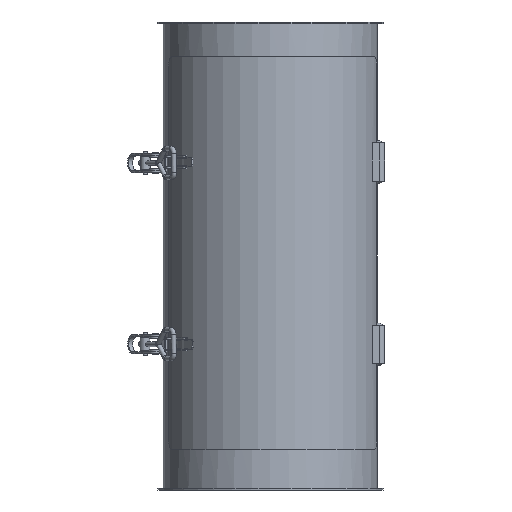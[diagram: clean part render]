
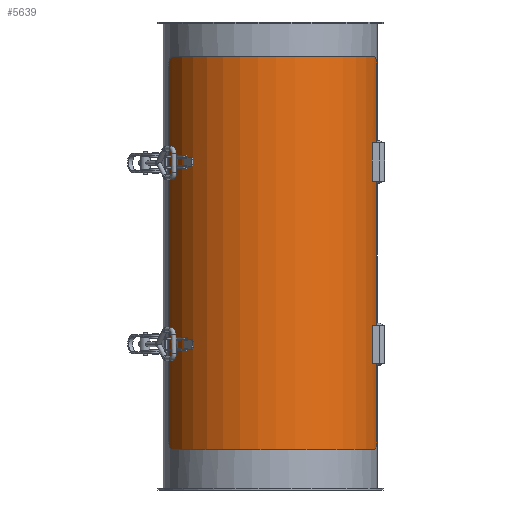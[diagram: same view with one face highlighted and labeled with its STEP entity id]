
A CAD part, front view. The second image highlights one B-rep face of the part: STEP entity #5639.
In plain terms, the highlighted cylindrical face has radius 113.5 mm (diameter 227 mm), a partial arc.
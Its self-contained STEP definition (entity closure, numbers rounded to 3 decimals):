
#5426=CARTESIAN_POINT('',(-16.634,12.525,0.441));
#5427=VERTEX_POINT('',#5426);
#5434=CARTESIAN_POINT('',(-26.634,2.525,0.0));
#5435=VERTEX_POINT('',#5434);
#5436=CARTESIAN_POINT('',(-16.634,12.525,0.441));
#5437=CARTESIAN_POINT('',(-17.886,12.525,0.331));
#5438=CARTESIAN_POINT('',(-19.225,12.275,0.235));
#5439=CARTESIAN_POINT('',(-21.69,11.255,0.101));
#5440=CARTESIAN_POINT('',(-22.816,10.485,0.061));
#5441=CARTESIAN_POINT('',(-24.592,8.708,0.015));
#5442=CARTESIAN_POINT('',(-25.362,7.584,0.006));
#5443=CARTESIAN_POINT('',(-26.383,5.12,-0.001));
#5444=CARTESIAN_POINT('',(-26.634,3.78,0.));
#5445=CARTESIAN_POINT('',(-26.634,2.525,0.));
#5446=B_SPLINE_CURVE_WITH_KNOTS('',3,(#5436,#5437,#5438,#5439,#5440,#5441,#5442,#5443,#5444,#5445),.UNSPECIFIED.,.F.,.U.,(4,2,2,2,4),(4.534,4.912,5.289,5.666,6.042),.UNSPECIFIED.);
#5447=EDGE_CURVE('',#5427,#5435,#5446,.T.);
#5464=CARTESIAN_POINT('',(-26.634,-387.475,0.0));
#5465=VERTEX_POINT('',#5464);
#5466=CARTESIAN_POINT('',(-26.634,-387.475,0.0));
#5467=DIRECTION('',(0.0,1.0,0.0));
#5468=VECTOR('',#5467,390.0);
#5469=LINE('',#5466,#5468);
#5470=EDGE_CURVE('',#5465,#5435,#5469,.T.);
#5489=CARTESIAN_POINT('',(-26.634,-397.475,113.5));
#5490=DIRECTION('',(0.,-1.0,0.0));
#5491=DIRECTION('',(0.56,0.0,0.828));
#5492=AXIS2_PLACEMENT_3D('',#5489,#5490,#5491);
#5493=CYLINDRICAL_SURFACE('',#5492,113.5);
#5494=ORIENTED_EDGE('',*,*,#5447,.F.);
#5495=CARTESIAN_POINT('',(44.975,12.525,201.56));
#5496=VERTEX_POINT('',#5495);
#5497=CARTESIAN_POINT('',(-26.634,12.525,113.5));
#5498=DIRECTION('',(0.0,-1.0,0.0));
#5499=DIRECTION('',(0.0,0.0,-1.0));
#5500=AXIS2_PLACEMENT_3D('',#5497,#5498,#5499);
#5501=CIRCLE('',#5500,113.5);
#5502=EDGE_CURVE('',#5427,#5496,#5501,.T.);
#5503=ORIENTED_EDGE('',*,*,#5502,.T.);
#5504=CARTESIAN_POINT('',(36.938,2.525,207.526));
#5505=VERTEX_POINT('',#5504);
#5506=CARTESIAN_POINT('',(36.938,2.525,207.526));
#5507=CARTESIAN_POINT('',(36.938,3.78,207.526));
#5508=CARTESIAN_POINT('',(37.146,5.12,207.386));
#5509=CARTESIAN_POINT('',(37.988,7.584,206.809));
#5510=CARTESIAN_POINT('',(38.62,8.708,206.371));
#5511=CARTESIAN_POINT('',(40.067,10.485,205.337));
#5512=CARTESIAN_POINT('',(40.977,11.255,204.673));
#5513=CARTESIAN_POINT('',(42.944,12.275,203.182));
#5514=CARTESIAN_POINT('',(43.999,12.525,202.353));
#5515=CARTESIAN_POINT('',(44.975,12.525,201.56));
#5516=B_SPLINE_CURVE_WITH_KNOTS('',3,(#5506,#5507,#5508,#5509,#5510,#5511,#5512,#5513,#5514,#5515),.UNSPECIFIED.,.F.,.U.,(4,2,2,2,4),(3.021,3.398,3.775,4.152,4.529),.UNSPECIFIED.);
#5517=EDGE_CURVE('',#5505,#5496,#5516,.T.);
#5518=ORIENTED_EDGE('',*,*,#5517,.F.);
#5519=CARTESIAN_POINT('',(36.938,-387.475,207.526));
#5520=VERTEX_POINT('',#5519);
#5521=CARTESIAN_POINT('',(36.938,2.525,207.526));
#5522=DIRECTION('',(0.0,-1.0,0.0));
#5523=VECTOR('',#5522,390.);
#5524=LINE('',#5521,#5523);
#5525=EDGE_CURVE('',#5505,#5520,#5524,.T.);
#5526=ORIENTED_EDGE('',*,*,#5525,.T.);
#5527=CARTESIAN_POINT('',(44.975,-397.475,201.56));
#5528=VERTEX_POINT('',#5527);
#5529=CARTESIAN_POINT('',(44.975,-397.475,201.56));
#5530=CARTESIAN_POINT('',(43.999,-397.475,202.353));
#5531=CARTESIAN_POINT('',(42.944,-397.225,203.182));
#5532=CARTESIAN_POINT('',(40.977,-396.205,204.673));
#5533=CARTESIAN_POINT('',(40.067,-395.435,205.337));
#5534=CARTESIAN_POINT('',(38.62,-393.659,206.371));
#5535=CARTESIAN_POINT('',(37.988,-392.534,206.809));
#5536=CARTESIAN_POINT('',(37.146,-390.07,207.386));
#5537=CARTESIAN_POINT('',(36.938,-388.731,207.526));
#5538=CARTESIAN_POINT('',(36.938,-387.475,207.526));
#5539=B_SPLINE_CURVE_WITH_KNOTS('',3,(#5529,#5530,#5531,#5532,#5533,#5534,#5535,#5536,#5537,#5538),.UNSPECIFIED.,.F.,.U.,(4,2,2,2,4),(1.513,1.89,2.268,2.644,3.021),.UNSPECIFIED.);
#5540=EDGE_CURVE('',#5528,#5520,#5539,.T.);
#5541=ORIENTED_EDGE('',*,*,#5540,.F.);
#5542=CARTESIAN_POINT('',(-16.634,-397.475,0.441));
#5543=VERTEX_POINT('',#5542);
#5544=CARTESIAN_POINT('',(-26.634,-397.475,113.5));
#5545=DIRECTION('',(0.0,1.,0.0));
#5546=DIRECTION('',(0.56,0.0,0.828));
#5547=AXIS2_PLACEMENT_3D('',#5544,#5545,#5546);
#5548=CIRCLE('',#5547,113.5);
#5549=EDGE_CURVE('',#5528,#5543,#5548,.T.);
#5550=ORIENTED_EDGE('',*,*,#5549,.T.);
#5551=CARTESIAN_POINT('',(-26.634,-387.475,0.));
#5552=CARTESIAN_POINT('',(-26.634,-388.731,0.));
#5553=CARTESIAN_POINT('',(-26.383,-390.07,-0.001));
#5554=CARTESIAN_POINT('',(-25.362,-392.534,0.006));
#5555=CARTESIAN_POINT('',(-24.592,-393.659,0.015));
#5556=CARTESIAN_POINT('',(-22.816,-395.435,0.061));
#5557=CARTESIAN_POINT('',(-21.69,-396.205,0.101));
#5558=CARTESIAN_POINT('',(-19.225,-397.225,0.235));
#5559=CARTESIAN_POINT('',(-17.886,-397.475,0.331));
#5560=CARTESIAN_POINT('',(-16.634,-397.475,0.441));
#5561=B_SPLINE_CURVE_WITH_KNOTS('',3,(#5551,#5552,#5553,#5554,#5555,#5556,#5557,#5558,#5559,#5560),.UNSPECIFIED.,.F.,.U.,(4,2,2,2,4),(6.042,6.419,6.796,7.173,7.55),.UNSPECIFIED.);
#5562=EDGE_CURVE('',#5465,#5543,#5561,.T.);
#5563=ORIENTED_EDGE('',*,*,#5562,.F.);
#5564=ORIENTED_EDGE('',*,*,#5470,.T.);
#5565=EDGE_LOOP('',(#5494,#5503,#5518,#5526,#5541,#5550,#5563,#5564));
#5566=FACE_OUTER_BOUND('',#5565,.T.);
#5567=CARTESIAN_POINT('',(48.817,-77.475,198.291));
#5568=VERTEX_POINT('',#5567);
#5569=CARTESIAN_POINT('',(48.817,-117.475,198.291));
#5570=VERTEX_POINT('',#5569);
#5571=CARTESIAN_POINT('',(48.817,-77.475,198.291));
#5572=DIRECTION('',(0.0,-1.0,0.0));
#5573=VECTOR('',#5572,40.0);
#5574=LINE('',#5571,#5573);
#5575=EDGE_CURVE('',#5568,#5570,#5574,.T.);
#5576=ORIENTED_EDGE('',*,*,#5575,.T.);
#5577=CARTESIAN_POINT('',(44.975,-117.475,201.56));
#5578=VERTEX_POINT('',#5577);
#5579=CARTESIAN_POINT('',(-26.634,-117.475,113.5));
#5580=DIRECTION('',(0.0,-1.,0.0));
#5581=DIRECTION('',(0.56,0.0,0.828));
#5582=AXIS2_PLACEMENT_3D('',#5579,#5580,#5581);
#5583=CIRCLE('',#5582,113.5);
#5584=EDGE_CURVE('',#5570,#5578,#5583,.T.);
#5585=ORIENTED_EDGE('',*,*,#5584,.T.);
#5586=CARTESIAN_POINT('',(44.975,-77.475,201.56));
#5587=VERTEX_POINT('',#5586);
#5588=CARTESIAN_POINT('',(44.975,-117.475,201.56));
#5589=DIRECTION('',(0.0,1.0,0.0));
#5590=VECTOR('',#5589,40.0);
#5591=LINE('',#5588,#5590);
#5592=EDGE_CURVE('',#5578,#5587,#5591,.T.);
#5593=ORIENTED_EDGE('',*,*,#5592,.T.);
#5594=CARTESIAN_POINT('',(-26.634,-77.475,113.5));
#5595=DIRECTION('',(0.0,1.,0.0));
#5596=DIRECTION('',(0.56,0.0,0.828));
#5597=AXIS2_PLACEMENT_3D('',#5594,#5595,#5596);
#5598=CIRCLE('',#5597,113.5);
#5599=EDGE_CURVE('',#5587,#5568,#5598,.T.);
#5600=ORIENTED_EDGE('',*,*,#5599,.T.);
#5601=EDGE_LOOP('',(#5576,#5585,#5593,#5600));
#5602=FACE_BOUND('',#5601,.T.);
#5603=CARTESIAN_POINT('',(48.817,-267.475,198.291));
#5604=VERTEX_POINT('',#5603);
#5605=CARTESIAN_POINT('',(48.817,-307.475,198.291));
#5606=VERTEX_POINT('',#5605);
#5607=CARTESIAN_POINT('',(48.817,-267.475,198.291));
#5608=DIRECTION('',(0.0,-1.0,0.0));
#5609=VECTOR('',#5608,40.0);
#5610=LINE('',#5607,#5609);
#5611=EDGE_CURVE('',#5604,#5606,#5610,.T.);
#5612=ORIENTED_EDGE('',*,*,#5611,.T.);
#5613=CARTESIAN_POINT('',(44.975,-307.475,201.56));
#5614=VERTEX_POINT('',#5613);
#5615=CARTESIAN_POINT('',(-26.634,-307.475,113.5));
#5616=DIRECTION('',(0.0,-1.,0.0));
#5617=DIRECTION('',(0.56,0.0,0.828));
#5618=AXIS2_PLACEMENT_3D('',#5615,#5616,#5617);
#5619=CIRCLE('',#5618,113.5);
#5620=EDGE_CURVE('',#5606,#5614,#5619,.T.);
#5621=ORIENTED_EDGE('',*,*,#5620,.T.);
#5622=CARTESIAN_POINT('',(44.975,-267.475,201.56));
#5623=VERTEX_POINT('',#5622);
#5624=CARTESIAN_POINT('',(44.975,-307.475,201.56));
#5625=DIRECTION('',(0.0,1.0,0.0));
#5626=VECTOR('',#5625,40.0);
#5627=LINE('',#5624,#5626);
#5628=EDGE_CURVE('',#5614,#5623,#5627,.T.);
#5629=ORIENTED_EDGE('',*,*,#5628,.T.);
#5630=CARTESIAN_POINT('',(-26.634,-267.475,113.5));
#5631=DIRECTION('',(0.0,1.,0.0));
#5632=DIRECTION('',(0.56,0.0,0.828));
#5633=AXIS2_PLACEMENT_3D('',#5630,#5631,#5632);
#5634=CIRCLE('',#5633,113.5);
#5635=EDGE_CURVE('',#5623,#5604,#5634,.T.);
#5636=ORIENTED_EDGE('',*,*,#5635,.T.);
#5637=EDGE_LOOP('',(#5612,#5621,#5629,#5636));
#5638=FACE_BOUND('',#5637,.T.);
#5639=ADVANCED_FACE('',(#5566,#5602,#5638),#5493,.T.);
